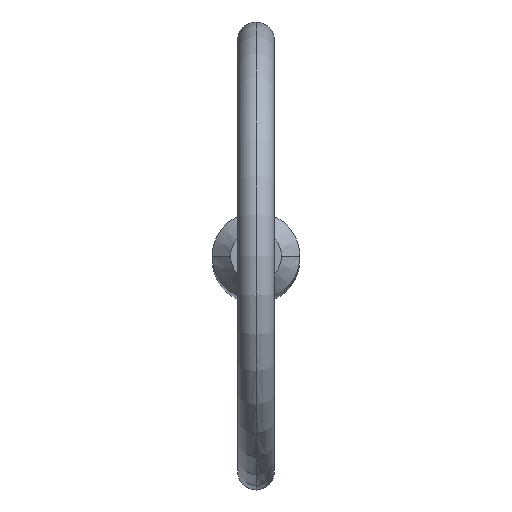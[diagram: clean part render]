
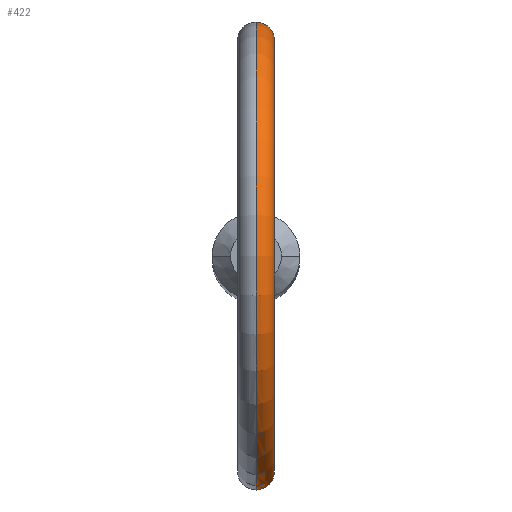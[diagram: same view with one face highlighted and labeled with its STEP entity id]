
A CAD part, top view. The second image highlights one B-rep face of the part: STEP entity #422.
In plain terms, the highlighted toroidal (fillet/blend) face has major radius 11.7 mm and minor radius 1 mm.
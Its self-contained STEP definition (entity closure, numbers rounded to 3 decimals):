
#6 = CARTESIAN_POINT ( 'NONE',  ( 0., 0., 109.2 ) ) ;
#7 = CARTESIAN_POINT ( 'NONE',  ( 0.625, 2.299, 96.921 ) ) ;
#8 = ORIENTED_EDGE ( 'NONE', *, *, #136, .F. ) ;
#14 = CARTESIAN_POINT ( 'NONE',  ( 0., 2.38, 98.768 ) ) ;
#42 = CARTESIAN_POINT ( 'NONE',  ( 0.793, -2.246, 98.352 ) ) ;
#43 = ORIENTED_EDGE ( 'NONE', *, *, #413, .F. ) ;
#52 = CARTESIAN_POINT ( 'NONE',  ( 1.003, 2.158, 97.597 ) ) ;
#69 = CARTESIAN_POINT ( 'NONE',  ( 0., -2.38, 96.725 ) ) ;
#77 = CARTESIAN_POINT ( 'NONE',  ( 0.133, 2.38, 96.725 ) ) ;
#78 = VERTEX_POINT ( 'NONE', #14 ) ;
#85 = CARTESIAN_POINT ( 'NONE',  ( 0., -2.38, 98.768 ) ) ;
#112 = TOROIDAL_SURFACE ( 'NONE', #257, 11.7, 1. ) ;
#113 = CARTESIAN_POINT ( 'NONE',  ( 0.134, -2.38, 98.768 ) ) ;
#116 = CARTESIAN_POINT ( 'NONE',  ( 0., 2.38, 96.725 ) ) ;
#120 = CARTESIAN_POINT ( 'NONE',  ( 0.614, 2.301, 98.545 ) ) ;
#136 = EDGE_CURVE ( 'NONE', #78, #467, #192, .T. ) ;
#140 = CARTESIAN_POINT ( 'NONE',  ( 0., -2.38, 98.768 ) ) ;
#144 = CARTESIAN_POINT ( 'NONE',  ( 0.885, -2.21, 97.217 ) ) ;
#145 = CARTESIAN_POINT ( 'NONE',  ( 0.981, -2.169, 97.464 ) ) ;
#147 = CARTESIAN_POINT ( 'NONE',  ( 0.509, 2.328, 98.624 ) ) ;
#153 = DIRECTION ( 'NONE',  ( 0., 0., -1. ) ) ;
#180 = DIRECTION ( 'NONE',  ( 1., 0., 0. ) ) ;
#182 = CARTESIAN_POINT ( 'NONE',  ( 0.513, -2.327, 96.848 ) ) ;
#187 = CARTESIAN_POINT ( 'NONE',  ( 0., 0., 109.2 ) ) ;
#188 = CARTESIAN_POINT ( 'NONE',  ( 0.793, 2.246, 98.353 ) ) ;
#191 = DIRECTION ( 'NONE',  ( 1., 0., 0. ) ) ;
#192 = CIRCLE ( 'NONE', #234, 10.7 ) ;
#226 = VERTEX_POINT ( 'NONE', #69 ) ;
#228 = CARTESIAN_POINT ( 'NONE',  ( 0.267, 2.368, 98.737 ) ) ;
#230 = CARTESIAN_POINT ( 'NONE',  ( 0., 2.38, 98.768 ) ) ;
#234 = AXIS2_PLACEMENT_3D ( 'NONE', #284, #287, #324 ) ;
#255 = CARTESIAN_POINT ( 'NONE',  ( 0., 2.38, 96.725 ) ) ;
#256 = CARTESIAN_POINT ( 'NONE',  ( 0.966, -2.176, 97.997 ) ) ;
#257 = AXIS2_PLACEMENT_3D ( 'NONE', #6, #191, #153 ) ;
#261 = CARTESIAN_POINT ( 'NONE',  ( 0.513, 2.327, 96.849 ) ) ;
#274 = EDGE_LOOP ( 'NONE', ( #43, #327, #468, #8 ) ) ;
#276 = EDGE_CURVE ( 'NONE', #323, #226, #358, .T. ) ;
#284 = CARTESIAN_POINT ( 'NONE',  ( 0., 0., 109.2 ) ) ;
#287 = DIRECTION ( 'NONE',  ( 1., 0., 0. ) ) ;
#295 = CARTESIAN_POINT ( 'NONE',  ( 0.996, 2.162, 97.864 ) ) ;
#300 = AXIS2_PLACEMENT_3D ( 'NONE', #187, #180, #440 ) ;
#301 = CARTESIAN_POINT ( 'NONE',  ( 0.966, 2.176, 97.997 ) ) ;
#314 = FACE_OUTER_BOUND ( 'NONE', #274, .T. ) ;
#319 = B_SPLINE_CURVE_WITH_KNOTS ( 'NONE', 3,
 ( #116, #77, #342, #261, #7, #341, #369, #416, #52, #295, #301, #367, #188, #120, #147, #228, #370, #230 ),
 .UNSPECIFIED., .F., .F.,
 ( 4, 2, 2, 2, 2, 2, 2, 2, 4 ),
 ( 0.001, 0.001, 0.001, 0.002, 0.002, 0.003, 0.003, 0.003, 0.004 ),
 .UNSPECIFIED. ) ;
#323 = VERTEX_POINT ( 'NONE', #255 ) ;
#324 = DIRECTION ( 'NONE',  ( 0., 0., -1. ) ) ;
#327 = ORIENTED_EDGE ( 'NONE', *, *, #276, .T. ) ;
#331 = CARTESIAN_POINT ( 'NONE',  ( 0.508, -2.328, 98.624 ) ) ;
#337 = CARTESIAN_POINT ( 'NONE',  ( 0.996, -2.162, 97.864 ) ) ;
#341 = CARTESIAN_POINT ( 'NONE',  ( 0.811, 2.24, 97.106 ) ) ;
#342 = CARTESIAN_POINT ( 'NONE',  ( 0.267, 2.368, 96.75 ) ) ;
#343 = CARTESIAN_POINT ( 'NONE',  ( 0., -2.38, 96.725 ) ) ;
#347 = B_SPLINE_CURVE_WITH_KNOTS ( 'NONE', 3,
 ( #140, #113, #403, #331, #365, #42, #443, #256, #337, #363, #145, #144, #410, #407, #182, #414, #450, #343 ),
 .UNSPECIFIED., .F., .F.,
 ( 4, 2, 2, 2, 2, 2, 2, 2, 4 ),
 ( 0.003, 0.003, 0.003, 0.004, 0.004, 0.005, 0.005, 0.005, 0.006 ),
 .UNSPECIFIED. ) ;
#358 = CIRCLE ( 'NONE', #300, 12.7 ) ;
#363 = CARTESIAN_POINT ( 'NONE',  ( 1.003, -2.158, 97.599 ) ) ;
#365 = CARTESIAN_POINT ( 'NONE',  ( 0.615, -2.301, 98.544 ) ) ;
#367 = CARTESIAN_POINT ( 'NONE',  ( 0.864, 2.218, 98.241 ) ) ;
#369 = CARTESIAN_POINT ( 'NONE',  ( 0.884, 2.21, 97.217 ) ) ;
#370 = CARTESIAN_POINT ( 'NONE',  ( 0.134, 2.38, 98.768 ) ) ;
#403 = CARTESIAN_POINT ( 'NONE',  ( 0.268, -2.368, 98.737 ) ) ;
#405 = EDGE_CURVE ( 'NONE', #467, #226, #347, .T. ) ;
#407 = CARTESIAN_POINT ( 'NONE',  ( 0.625, -2.299, 96.921 ) ) ;
#410 = CARTESIAN_POINT ( 'NONE',  ( 0.811, -2.24, 97.106 ) ) ;
#413 = EDGE_CURVE ( 'NONE', #323, #78, #319, .T. ) ;
#414 = CARTESIAN_POINT ( 'NONE',  ( 0.268, -2.368, 96.751 ) ) ;
#416 = CARTESIAN_POINT ( 'NONE',  ( 0.981, 2.169, 97.462 ) ) ;
#422 = ADVANCED_FACE ( 'NONE', ( #314 ), #112, .T. ) ;
#440 = DIRECTION ( 'NONE',  ( 0., 0., -1. ) ) ;
#443 = CARTESIAN_POINT ( 'NONE',  ( 0.865, -2.218, 98.24 ) ) ;
#450 = CARTESIAN_POINT ( 'NONE',  ( 0.133, -2.38, 96.725 ) ) ;
#467 = VERTEX_POINT ( 'NONE', #85 ) ;
#468 = ORIENTED_EDGE ( 'NONE', *, *, #405, .F. ) ;
